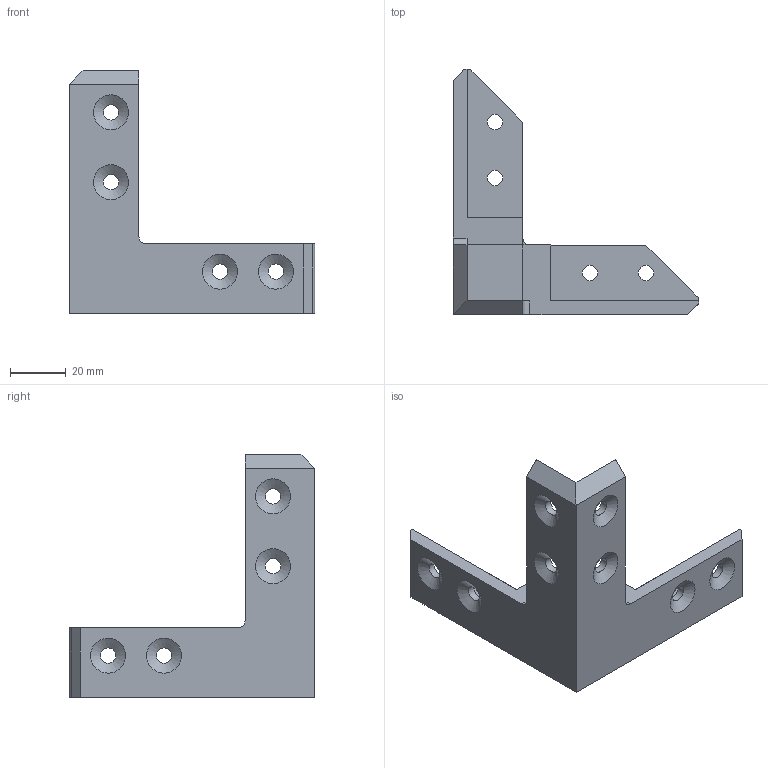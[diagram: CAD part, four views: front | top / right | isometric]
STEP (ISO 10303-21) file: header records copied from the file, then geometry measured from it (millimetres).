
FILE_DESCRIPTION(/* description */ (''),/* implementation_level */ '2;1');
FILE_NAME(/* name */ 'C:/Users/longl/OneDrive/Documents/OpenBox Builds/Parts/Frame/Frame Corner Becket.step',/* time_stamp */ '2021-08-05T18:47:25-04:00',/* author */ (''),/* organization */ (''),/* preprocessor_version */ 'ST-DEVELOPER v18.1',/* originating_system */ 'Autodesk Translation Framework v10.9.0.1377',/* authorisation */ '');
FILE_SCHEMA (('AUTOMOTIVE_DESIGN { 1 0 10303 214 3 1 1 }'));
Length unit declared in the file: millimetre
Products named in the file (1): Frame 3 Way Corner bracket - 400mm
Bounding box: 87.96 x 87.96 x 87 mm (x, y, z)
Volume: 64480.7 mm3; surface area: 21588.8 mm2
Topology: 1 solids, 1 shells, 56 faces, 145 edges, 91 vertices
Faces by surface type: plane 27, cylinder 17, cone 12
Full cylindrical faces by diameter (mm): 5.5 x12
Entity records: 1789 total; most frequent: DIRECTION 307, CARTESIAN_POINT 293, ORIENTED_EDGE 290, EDGE_CURVE 145, AXIS2_PLACEMENT_3D 105, LINE 97, VECTOR 97, VERTEX_POINT 91
